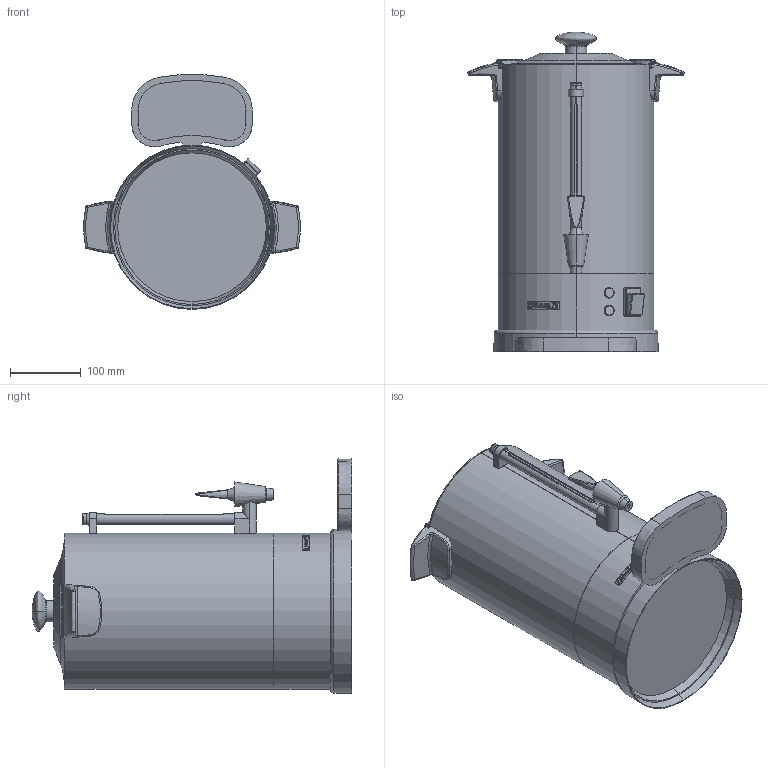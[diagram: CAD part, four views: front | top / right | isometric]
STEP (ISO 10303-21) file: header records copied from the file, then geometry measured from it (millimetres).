
FILE_DESCRIPTION (( 'STEP AP214' ), '1' );
FILE_NAME ('pres_CPC60S.STEP', '2025-01-08T15:56:14', ( '' ), ( '' ), 'SwSTEP 2.0', 'SolidWorks 2025', '' );
FILE_SCHEMA (( 'AUTOMOTIVE_DESIGN' ));
Length unit declared in the file: millimetre
Products named in the file (21): Poignée-corps-perco; pres_CPC60S; Support-bas-perco; Socle-perco; ASS-base-perco; Fixation-p1-couvercle-haut; Jauge-perco; LOGO-CASSELIN-perco; Bouton-perco; ASS-bac-reception; couvercle-perco; Plaque-reception-perco; ASS-corps-perco; ASS-couvercle-perco; Corps-perco; Bac-reception-perco; Capuchon-perco; Support-haut-perco; ASS-jauge-perco; Base-perco; Bouton-commande-perco
Assembly tree (23 placements, depth 3):
  pres_CPC60S
    Socle-perco
    ASS-base-perco
      Base-perco
      Bouton-perco
      Bouton-commande-perco  x2
      LOGO-CASSELIN-perco
    ASS-corps-perco
      Corps-perco
      Poignée-corps-perco  x2
    ASS-couvercle-perco
      couvercle-perco
      Fixation-p1-couvercle-haut  x2
    ASS-bac-reception
      Bac-reception-perco
      Plaque-reception-perco
    ASS-jauge-perco
      Jauge-perco
      Capuchon-perco
      Support-haut-perco
      Support-bas-perco
Bounding box: 305.28 x 451 x 331.54 mm (x, y, z)
Volume: 1149493 mm3; surface area: 885374.6 mm2
Topology: 21 solids, 21 shells, 624 faces, 1557 edges, 985 vertices
Faces by surface type: cylinder 179, plane 162, bspline 119, torus 97, cone 61, sphere 6
Entity records: 29919 total; most frequent: CARTESIAN_POINT 15259, ORIENTED_EDGE 2684, DIRECTION 2296, EDGE_CURVE 1342, AXIS2_PLACEMENT_3D 1014, VERTEX_POINT 858, EDGE_LOOP 642, FACE_OUTER_BOUND 540
